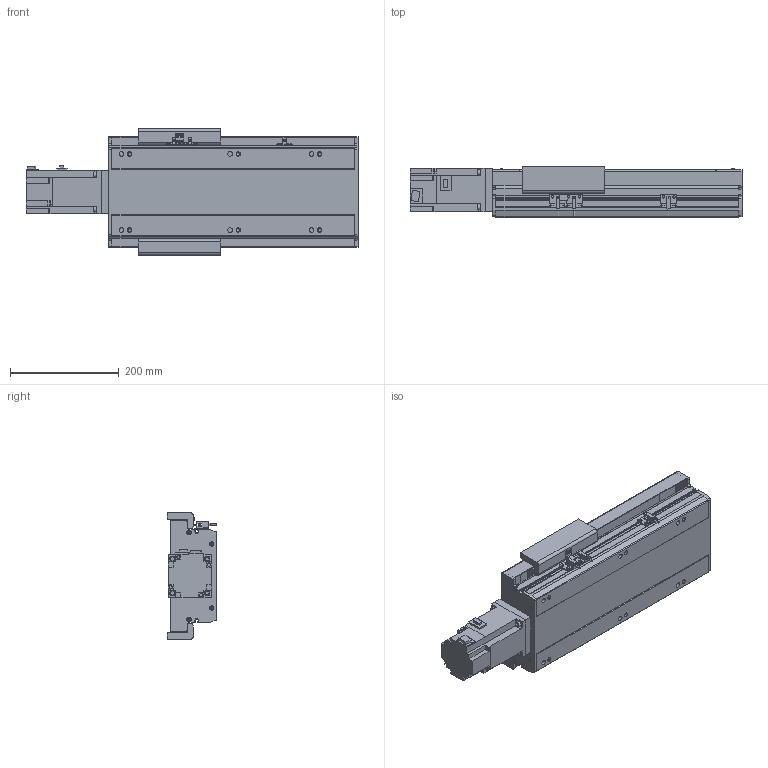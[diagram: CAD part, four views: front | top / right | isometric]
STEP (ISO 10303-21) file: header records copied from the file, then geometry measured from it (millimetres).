
FILE_DESCRIPTION(/* description */ ('STEP AP214'),/* implementation_level */ '2;1');
FILE_NAME(/* name */ 'PSM170-L10-S200-BC-T75-C1-N(0)',/* time_stamp */ '2022-06-13T03:23:46+02:00',/* author */ ('License CC BY-ND 4.0'),/* organization */ ('CADENAS'),/* preprocessor_version */ 'ST-DEVELOPER v18.102',/* originating_system */ 'PARTsolutions',/* authorisation */ ' ');
FILE_SCHEMA (('AUTOMOTIVE_DESIGN {1 0 10303 214 3 1 1}'));
Length unit declared in the file: millimetre
Products named in the file (8): PSM170-L10-S200-BC-T75-C1-N(0); PSM-Sensor; PSM140-S200-442.5; T75-p1; PSM170_body2; PSM170_body3; PSM170-S200_body1; PSM170-L10-S200-BC-T75-C1-N(0)_dummy
Assembly tree (11 placements, depth 2):
  PSM170-L10-S200-BC-T75-C1-N(0)
    PSM-Sensor  x3
    PSM140-S200-442.5  x3
    T75-p1
    PSM170_body2
    PSM170_body3
    PSM170-S200_body1
    PSM170-L10-S200-BC-T75-C1-N(0)_dummy
Bounding box: 611.3 x 92 x 233 mm (x, y, z)
Volume: 4012709.4 mm3; surface area: 748243.5 mm2
Topology: 10 solids, 10 shells, 975 faces, 2591 edges, 1688 vertices
Faces by surface type: plane 636, cylinder 273, cone 52, torus 14
Full cylindrical faces by diameter (mm): 2.8 x3, 3.08 x1, 4.134 x4, 4.5 x12, 4.6 x3, 5.7 x2, 6 x9, 6.647 x14, 7 x8, 7.6 x4, 8 x8, 8.5 x6, 10 x4, 14 x6, 45 x1, 70 x1
Entity records: 25309 total; most frequent: CARTESIAN_POINT 4518, DIRECTION 4270, ORIENTED_EDGE 4076, EDGE_CURVE 2038, LINE 1424, VECTOR 1424, AXIS2_PLACEMENT_3D 1423, VERTEX_POINT 1418
